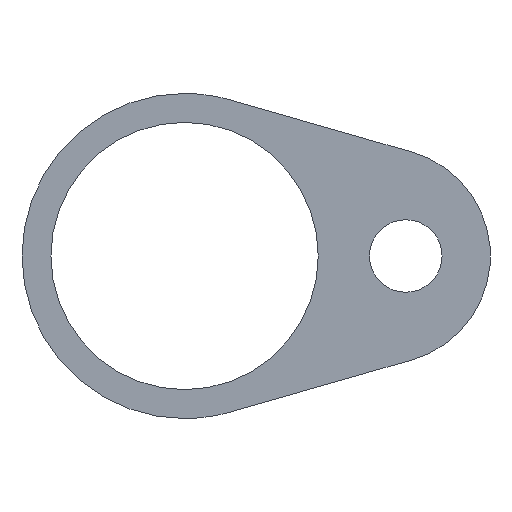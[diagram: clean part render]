
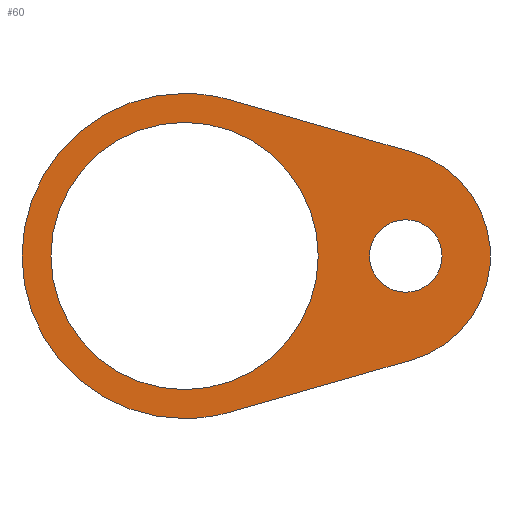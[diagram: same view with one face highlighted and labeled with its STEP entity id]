
A CAD part, front view. The second image highlights one B-rep face of the part: STEP entity #60.
In plain terms, the highlighted planar face has unit normal (0, -1, 0).
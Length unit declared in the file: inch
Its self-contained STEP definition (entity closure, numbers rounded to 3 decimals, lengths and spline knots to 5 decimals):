
#3 = EDGE_LOOP ( 'NONE', ( #75, #72 ) ) ;
#21 = ORIENTED_EDGE ( 'NONE', *, *, #198, .F. ) ;
#22 = ORIENTED_EDGE ( 'NONE', *, *, #207, .F. ) ;
#23 = ORIENTED_EDGE ( 'NONE', *, *, #201, .F. ) ;
#24 = ORIENTED_EDGE ( 'NONE', *, *, #203, .F. ) ;
#25 = ORIENTED_EDGE ( 'NONE', *, *, #196, .F. ) ;
#60 = ADVANCED_FACE ( 'NONE', ( #231, #424, #227 ), #372, .F. ) ;
#70 = ORIENTED_EDGE ( 'NONE', *, *, #178, .T. ) ;
#71 = ORIENTED_EDGE ( 'NONE', *, *, #192, .T. ) ;
#72 = ORIENTED_EDGE ( 'NONE', *, *, #204, .T. ) ;
#74 = ORIENTED_EDGE ( 'NONE', *, *, #190, .F. ) ;
#75 = ORIENTED_EDGE ( 'NONE', *, *, #202, .T. ) ;
#108 = VECTOR ( 'NONE', #263, 39.37008 ) ;
#109 = LINE ( 'NONE', #264, #108 ) ;
#110 = CIRCLE ( 'NONE', #158, 0.74803 ) ;
#113 = CIRCLE ( 'NONE', #218, 0.203 ) ;
#116 = CIRCLE ( 'NONE', #156, 0.203 ) ;
#119 = LINE ( 'NONE', #286, #124 ) ;
#120 = CIRCLE ( 'NONE', #215, 0.605 ) ;
#124 = VECTOR ( 'NONE', #276, 39.37008 ) ;
#125 = CIRCLE ( 'NONE', #159, 0.91 ) ;
#128 = CIRCLE ( 'NONE', #213, 0.91 ) ;
#130 = CIRCLE ( 'NONE', #165, 0.91 ) ;
#141 = CIRCLE ( 'NONE', #183, 0.74803 ) ;
#156 = AXIS2_PLACEMENT_3D ( 'NONE', #282, #279, #278 ) ;
#158 = AXIS2_PLACEMENT_3D ( 'NONE', #325, #317, #316 ) ;
#159 = AXIS2_PLACEMENT_3D ( 'NONE', #302, #299, #298 ) ;
#165 = AXIS2_PLACEMENT_3D ( 'NONE', #330, #324, #323 ) ;
#170 = AXIS2_PLACEMENT_3D ( 'NONE', #371, #369, #368 ) ;
#178 = EDGE_CURVE ( 'NONE', #400, #291, #141, .T. ) ;
#183 = AXIS2_PLACEMENT_3D ( 'NONE', #348, #346, #345 ) ;
#190 = EDGE_CURVE ( 'NONE', #280, #269, #130, .T. ) ;
#192 = EDGE_CURVE ( 'NONE', #291, #400, #110, .T. ) ;
#196 = EDGE_CURVE ( 'NONE', #269, #301, #128, .T. ) ;
#198 = EDGE_CURVE ( 'NONE', #292, #280, #125, .T. ) ;
#201 = EDGE_CURVE ( 'NONE', #255, #283, #120, .T. ) ;
#202 = EDGE_CURVE ( 'NONE', #300, #294, #116, .T. ) ;
#203 = EDGE_CURVE ( 'NONE', #301, #255, #119, .T. ) ;
#204 = EDGE_CURVE ( 'NONE', #294, #300, #113, .T. ) ;
#207 = EDGE_CURVE ( 'NONE', #283, #292, #109, .T. ) ;
#213 = AXIS2_PLACEMENT_3D ( 'NONE', #321, #306, #305 ) ;
#215 = AXIS2_PLACEMENT_3D ( 'NONE', #295, #285, #284 ) ;
#218 = AXIS2_PLACEMENT_3D ( 'NONE', #277, #275, #274 ) ;
#227 = FACE_BOUND ( 'NONE', #3, .T. ) ;
#231 = FACE_BOUND ( 'NONE', #429, .T. ) ;
#240 = CARTESIAN_POINT ( 'NONE',  ( 1.238, 0., 0.203 ) ) ;
#241 = CARTESIAN_POINT ( 'NONE',  ( 0.25083, 0., -0.87475 ) ) ;
#242 = CARTESIAN_POINT ( 'NONE',  ( 0., 0., 0.74803 ) ) ;
#243 = CARTESIAN_POINT ( 'NONE',  ( 1.27329, 0., -0.58156 ) ) ;
#245 = CARTESIAN_POINT ( 'NONE',  ( 0., 0., -0.91 ) ) ;
#253 = CARTESIAN_POINT ( 'NONE',  ( 1.27329, 0., 0.58156 ) ) ;
#255 = VERTEX_POINT ( 'NONE', #253 ) ;
#263 = DIRECTION ( 'NONE',  ( -0.961, 0., -0.276 ) ) ;
#264 = CARTESIAN_POINT ( 'NONE',  ( 0.25083, 0., -0.87475 ) ) ;
#269 = VERTEX_POINT ( 'NONE', #273 ) ;
#273 = CARTESIAN_POINT ( 'NONE',  ( 0., 0., 0.91 ) ) ;
#274 = DIRECTION ( 'NONE',  ( 0., 0., 1. ) ) ;
#275 = DIRECTION ( 'NONE',  ( 0., 1., 0. ) ) ;
#276 = DIRECTION ( 'NONE',  ( 0.961, 0., -0.276 ) ) ;
#277 = CARTESIAN_POINT ( 'NONE',  ( 1.238, 0., 0. ) ) ;
#278 = DIRECTION ( 'NONE',  ( 0., 0., 1. ) ) ;
#279 = DIRECTION ( 'NONE',  ( 0., 1., 0. ) ) ;
#280 = VERTEX_POINT ( 'NONE', #245 ) ;
#282 = CARTESIAN_POINT ( 'NONE',  ( 1.238, 0., 0. ) ) ;
#283 = VERTEX_POINT ( 'NONE', #243 ) ;
#284 = DIRECTION ( 'NONE',  ( 0., 0., 1. ) ) ;
#285 = DIRECTION ( 'NONE',  ( 0., 1., 0. ) ) ;
#286 = CARTESIAN_POINT ( 'NONE',  ( 0.25083, 0., 0.87475 ) ) ;
#291 = VERTEX_POINT ( 'NONE', #242 ) ;
#292 = VERTEX_POINT ( 'NONE', #241 ) ;
#294 = VERTEX_POINT ( 'NONE', #240 ) ;
#295 = CARTESIAN_POINT ( 'NONE',  ( 1.10653, 0., 0. ) ) ;
#298 = DIRECTION ( 'NONE',  ( 0., 0., 1. ) ) ;
#299 = DIRECTION ( 'NONE',  ( 0., 1., 0. ) ) ;
#300 = VERTEX_POINT ( 'NONE', #402 ) ;
#301 = VERTEX_POINT ( 'NONE', #389 ) ;
#302 = CARTESIAN_POINT ( 'NONE',  ( 0., 0., 0. ) ) ;
#305 = DIRECTION ( 'NONE',  ( 0., 0., 1. ) ) ;
#306 = DIRECTION ( 'NONE',  ( 0., 1., 0. ) ) ;
#316 = DIRECTION ( 'NONE',  ( 0., 0., 1. ) ) ;
#317 = DIRECTION ( 'NONE',  ( 0., 1., 0. ) ) ;
#321 = CARTESIAN_POINT ( 'NONE',  ( 0., 0., 0. ) ) ;
#323 = DIRECTION ( 'NONE',  ( 0., 0., 1. ) ) ;
#324 = DIRECTION ( 'NONE',  ( 0., 1., 0. ) ) ;
#325 = CARTESIAN_POINT ( 'NONE',  ( 0., 0., 0. ) ) ;
#330 = CARTESIAN_POINT ( 'NONE',  ( 0., 0., 0. ) ) ;
#345 = DIRECTION ( 'NONE',  ( 0., 0., 1. ) ) ;
#346 = DIRECTION ( 'NONE',  ( 0., 1., 0. ) ) ;
#348 = CARTESIAN_POINT ( 'NONE',  ( 0., 0., 0. ) ) ;
#368 = DIRECTION ( 'NONE',  ( 0., 0., 1. ) ) ;
#369 = DIRECTION ( 'NONE',  ( 0., 1., 0. ) ) ;
#371 = CARTESIAN_POINT ( 'NONE',  ( 0., 0., 0. ) ) ;
#372 = PLANE ( 'NONE',  #170 ) ;
#389 = CARTESIAN_POINT ( 'NONE',  ( 0.25083, 0., 0.87475 ) ) ;
#398 = CARTESIAN_POINT ( 'NONE',  ( 0., 0., -0.74803 ) ) ;
#400 = VERTEX_POINT ( 'NONE', #398 ) ;
#402 = CARTESIAN_POINT ( 'NONE',  ( 1.238, 0., -0.203 ) ) ;
#424 = FACE_OUTER_BOUND ( 'NONE', #427, .T. ) ;
#427 = EDGE_LOOP ( 'NONE', ( #21, #22, #23, #24, #25, #74 ) ) ;
#429 = EDGE_LOOP ( 'NONE', ( #70, #71 ) ) ;
